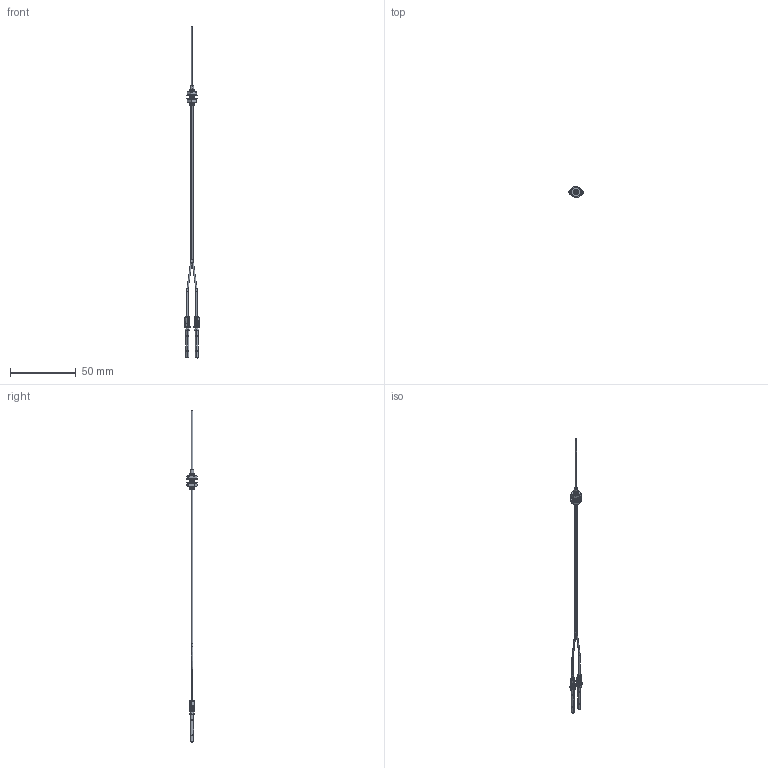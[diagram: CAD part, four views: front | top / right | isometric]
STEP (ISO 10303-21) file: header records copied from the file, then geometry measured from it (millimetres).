
FILE_DESCRIPTION (( 'STEP AP214' ), '1' );
FILE_NAME ('FDS2-420-05.STEP', '2019-06-18T02:30:54', ( '' ), ( '' ), 'SwSTEP 2.0', 'SolidWorks 2018', '' );
FILE_SCHEMA (( 'AUTOMOTIVE_DESIGN' ));
Length unit declared in the file: millimetre
Products named in the file (1): FDS2-420-05
Bounding box: 10.99 x 8.49 x 252.01 mm (x, y, z)
Volume: 996.4 mm3; surface area: 2990.7 mm2
Topology: 7 solids, 7 shells, 386 faces, 969 edges, 609 vertices
Faces by surface type: plane 159, cylinder 144, cone 52, torus 20, bspline 11
Entity records: 16103 total; most frequent: CARTESIAN_POINT 6864, ORIENTED_EDGE 1938, DIRECTION 1795, EDGE_CURVE 969, AXIS2_PLACEMENT_3D 714, VERTEX_POINT 609, EDGE_LOOP 414, FACE_OUTER_BOUND 386
